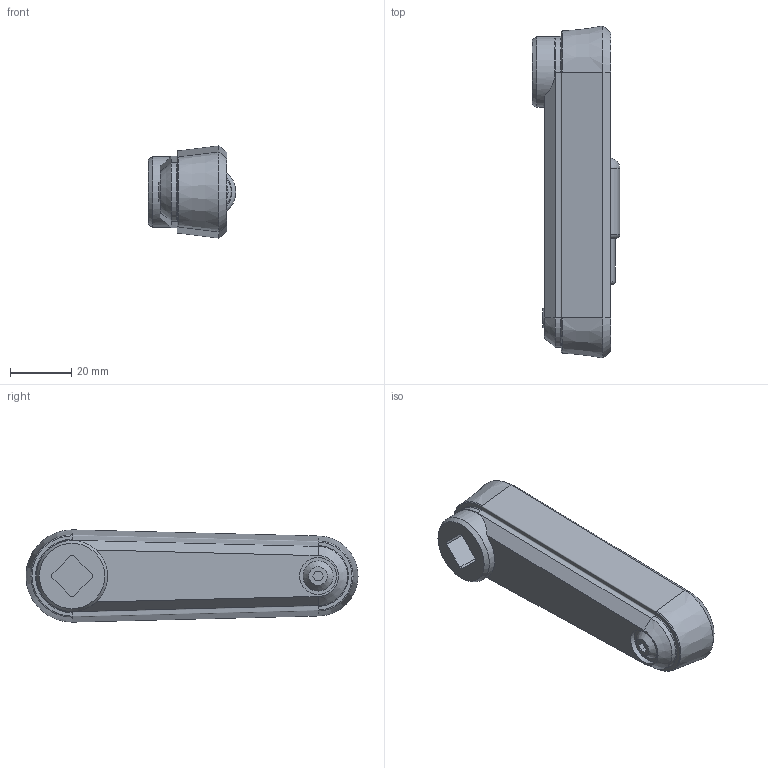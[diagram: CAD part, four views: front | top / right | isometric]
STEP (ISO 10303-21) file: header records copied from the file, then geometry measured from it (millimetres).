
FILE_DESCRIPTION( ( 'STEP AP203' ), '1' );
FILE_NAME( 'C:/Temp/Ganter_Step_05_03_2020/data/1_3/gn_472_3/Cranked handle with retractable handle GN 472.3-80-V10-SR (unactivated).stp', '2020-03-05T10:45:58', ( 'License CC BY-ND 4.0' ), ( 'CADENAS' ), ' ', 'PARTsolutions', ' ' );
FILE_SCHEMA( ( 'CONFIG_CONTROL_DESIGN' ) );
Length unit declared in the file: millimetre
Products named in the file (3): Cranked handle with retractable handle GN 472.3-80-V10-SR (unactivated); _Cranked handle with retractable handle GN 472.3-80-V10-SR (0)-1; _Cranked handle with retractable handle GN 472.3-80-V10-SR (0)-2
Assembly tree (2 placements, depth 2):
  Cranked handle with retractable handle GN 472.3-80-V10-SR (unactivated)
    _Cranked handle with retractable handle GN 472.3-80-V10-SR (0)-1
    _Cranked handle with retractable handle GN 472.3-80-V10-SR (0)-2
Bounding box: 28.5 x 108 x 30 mm (x, y, z)
Volume: 42584.8 mm3; surface area: 17881.8 mm2
Topology: 2 solids, 3 shells, 103 faces, 249 edges, 162 vertices
Faces by surface type: plane 52, cylinder 27, torus 11, cone 10, bspline 2, sphere 1
Full cylindrical faces by diameter (mm): 3 x2, 8 x1, 9.5 x1, 12 x1, 13 x1, 16 x1, 16.02 x1, 20 x2, 23 x1
Entity records: 3100 total; most frequent: CARTESIAN_POINT 687, DIRECTION 478, ORIENTED_EDGE 448, EDGE_CURVE 224, AXIS2_PLACEMENT_3D 186, VERTEX_POINT 157, EDGE_LOOP 136, FACE_OUTER_BOUND 119
